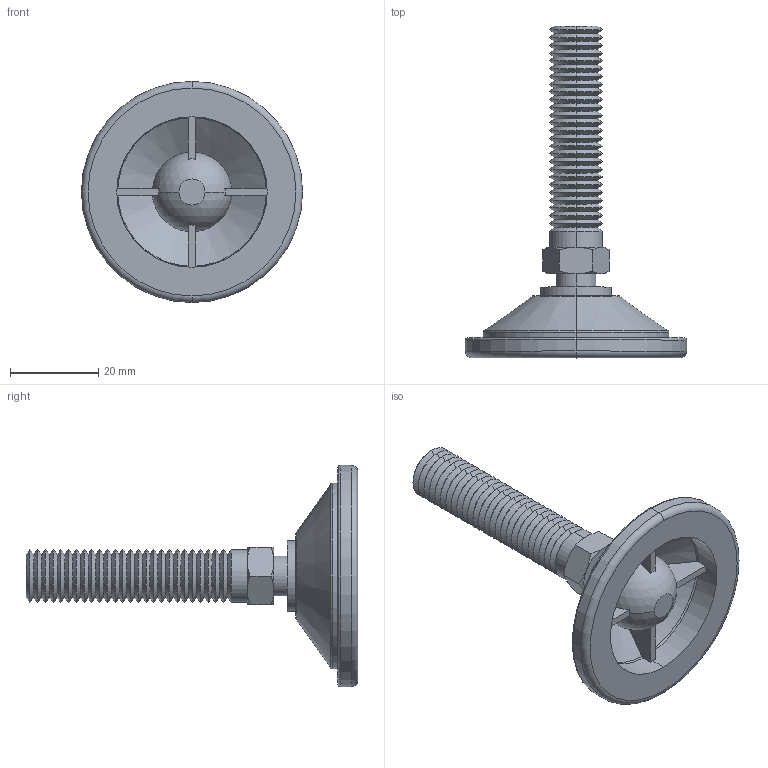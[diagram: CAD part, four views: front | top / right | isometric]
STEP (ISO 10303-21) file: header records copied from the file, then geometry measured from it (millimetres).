
FILE_DESCRIPTION (( 'STEP AP203' ), '1' );
FILE_NAME ('34741.W0121.step', '2016-09-22T07:40:53', ( 'User' ), ( '' ), 'SwSTEP 2.0', 'SolidWorks 2009', '' );
FILE_SCHEMA (( 'CONFIG_CONTROL_DESIGN' ));
Length unit declared in the file: millimetre
Products named in the file (3): 34741.W0121; Part1_34741.W0121; Part2_34741.W0121
Assembly tree (2 placements, depth 2):
  34741.W0121
    Part1_34741.W0121
    Part2_34741.W0121
Bounding box: 50 x 75 x 50 mm (x, y, z)
Volume: 17087.3 mm3; surface area: 10811.1 mm2
Topology: 2 solids, 2 shells, 184 faces, 404 edges, 226 vertices
Faces by surface type: cone 126, plane 26, cylinder 14, torus 12, sphere 6
Entity records: 5345 total; most frequent: CARTESIAN_POINT 1013, DIRECTION 942, ORIENTED_EDGE 790, AXIS2_PLACEMENT_3D 398, EDGE_CURVE 395, VERTEX_POINT 221, CIRCLE 209, EDGE_LOOP 190
